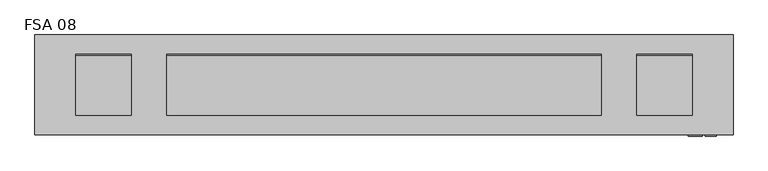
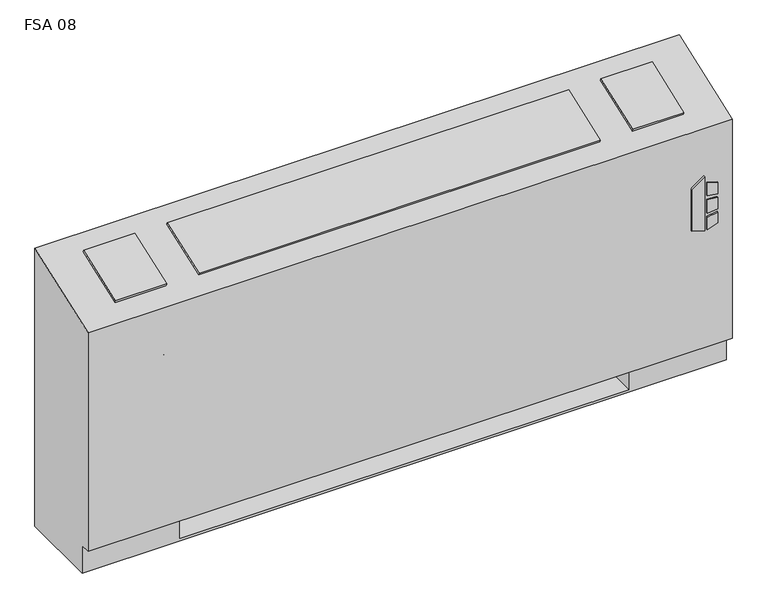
"""IFC4 building model written with IfcOpenShell, lengths in millimetres: proxy geometry, Vertical_Fan_Coil_Unit_-_FSA_-_IEC_-_2-Pipe_TS-FR_LH_2022 : FSA 08."""

from ifc_helpers import new_model, si_unit, point, frame, frame_2d, origin, place, context, project, spatial, polyline, circle_curve, trimmed, segment, composite_curve, outline, extrude, source, transform, mapped, element, save
from ifc_brep_helpers import plane_surface, revolved_surface, advanced_brep


def fsa_08_331cdd5b(model_context):
    return source(origin(), model_context, "Body", "SolidModel", [
        extrude(outline(polyline([(391.6086829, 849.3868862), (381.6606126, 881.5602728), (523.831537, 881.5602728), (500.8095309, 849.3868862), (391.6086829, 849.3868862)])), frame((0.0, 12.7, 0.0), z_axis=(0.0, 1.0, 0.0), x_axis=(0.0, 0.0, 1.0)), (0.0, 0.0, 1.0), 3.175),
        extrude(outline(polyline([(470.6079683, 888.3186058), (467.4055757, 914.4), (496.6344168, 914.4), (504.6988318, 888.3186058), (470.6079683, 888.3186058)])), frame((0.0, 12.7, 0.0), z_axis=(0.0, 1.0, 0.0), x_axis=(0.0, 0.0, 1.0)), (0.0, 0.0, 1.0), 3.175),
        extrude(outline(polyline([(418.7444414, 914.4), (415.0789404, 888.3186058), (381.6606126, 888.3186058), (390.2948498, 914.4), (418.7444414, 914.4)])), frame((0.0, 12.7, 0.0), z_axis=(0.0, 1.0, 0.0), x_axis=(0.0, 0.0, 1.0)), (0.0, 0.0, 1.0), 3.175),
        extrude(outline(polyline([(458.0596028, 914.4), (460.3414292, 888.3186058), (424.4038806, 888.3186058), (427.1451456, 914.4), (458.0596028, 914.4)])), frame((0.0, 12.7, 0.0), z_axis=(0.0, 1.0, 0.0), x_axis=(0.0, 0.0, 1.0)), (0.0, 0.0, 1.0), 3.175),
        extrude(outline(polyline([(831.85, 223.266), (831.85, 81.534), (711.2, 81.534), (711.2, 223.266), (831.85, 223.266)])), frame((0.0, 0.0, 327.025), z_axis=(0.0, 0.0, 1.0), x_axis=(1.0, 0.0, 0.0)), (0.0, 0.0, 1.0), 260.35),
        extrude(outline(composite_curve([segment(trimmed(circle_curve(frame_2d((-469.9, 130.175)), 9.525), [point((-479.425, 130.175))], [point((-460.375, 130.175))], False, "CARTESIAN"), True, "CONTINUOUS"), segment(trimmed(circle_curve(frame_2d((-469.9, 130.175)), 9.525), [point((-460.375, 130.175))], [point((-479.425, 130.175))], False, "CARTESIAN"), True, "CONTINUOUS")], self_intersect=False)), frame((0.0, 0.0, 101.6), z_axis=(0.0, 0.0, 1.0), x_axis=(1.0, 0.0, 0.0)), (0.0, 0.0, 1.0), 25.4),
        extrude(outline(polyline([(-571.5, 63.5), (-571.5, 196.85), (-406.4, 196.85), (-406.4, 63.5), (-571.5, 63.5)])), frame((0.0, 0.0, 127.0), z_axis=(0.0, 0.0, 1.0), x_axis=(1.0, 0.0, 0.0)), (0.0, 0.0, 1.0), 50.8),
        extrude(outline(polyline([(0.0, -146.0500001), (0.0, 0.0), (127.0, 0.0), (127.0, -146.0500001), (0.0, -146.0500001)])), frame((-553.593, 200.4217127, 714.3418685), z_axis=(0.0, -0.3396444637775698, 0.9405538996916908), x_axis=(1.0, 0.0, 0.0)), (0.0, 0.0, 1.0), 6.35),
        extrude(outline(polyline([(0.0, -146.0500001), (0.0, 0.0), (996.95, 0.0), (996.95, -146.0500001), (0.0, -146.0500001)])), frame((650.875, 63.0538156, 664.7367945), z_axis=(0.0, -0.33964446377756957, 0.9405538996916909), x_axis=(-1.0, 0.0, 0.0)), (0.0, 0.0, 1.0), 6.35),
        extrude(outline(polyline([(0.0, -146.0500001), (0.0, 0.0), (127.0, 0.0), (127.0, -146.0500001), (0.0, -146.0500001)])), frame((858.393, 63.0538156, 664.7367945), z_axis=(0.0, -0.3396444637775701, 0.9405538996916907), x_axis=(-1.0, 0.0, 0.0)), (0.0, 0.0, 1.0), 6.35),
        extrude(outline(composite_curve([segment(trimmed(circle_curve(frame_2d((109.347, 456.819)), 7.9375), [point((109.347, 464.7565))], [point((109.347, 448.8815))], False, "CARTESIAN"), True, "CONTINUOUS"), segment(trimmed(circle_curve(frame_2d((109.347, 456.819)), 7.9375), [point((109.347, 448.8815))], [point((109.347, 464.7565))], False, "CARTESIAN"), True, "CONTINUOUS")], self_intersect=False)), frame((-457.2, 0.0, 0.0), z_axis=(1.0, 0.0, 0.0), x_axis=(0.0, 1.0, 0.0)), (0.0, 0.0, 1.0), 50.8),
        extrude(outline(composite_curve([segment(trimmed(circle_curve(frame_2d((157.4546, 429.4632)), 7.9375), [point((157.4546, 437.4007))], [point((157.4546, 421.5257))], False, "CARTESIAN"), True, "CONTINUOUS"), segment(trimmed(circle_curve(frame_2d((157.4546, 429.4632)), 7.9375), [point((157.4546, 421.5257))], [point((157.4546, 437.4007))], False, "CARTESIAN"), True, "CONTINUOUS")], self_intersect=False)), frame((-457.2, 0.0, 0.0), z_axis=(1.0, 0.0, 0.0), x_axis=(0.0, 1.0, 0.0)), (0.0, 0.0, 1.0), 50.8),
        advanced_brep(
        [(-647.7, 244.475, 0.0), (952.5, 244.475, 0.0), (952.5, 41.275, 0.0), (-647.7, 41.275, 0.0), (-647.7, 244.475, 730.25), (952.5, 244.475, 730.25), (711.2, 244.475, 73.025), (939.8, 244.475, 73.025), (939.8, 244.475, 654.05), (711.2, 244.475, 654.05), (711.2, 244.475, 414.8650565), (739.775, 244.475, 414.8650565), (739.775, 244.475, 385.2349435), (711.2, 244.475, 385.2349435), (711.2, 244.475, 287.3375), (739.775, 244.475, 287.3375), (739.775, 244.475, 258.7625), (711.2, 244.475, 258.7625), (711.2, 244.475, 141.2875), (739.775, 244.475, 141.2875), (739.775, 244.475, 112.7125), (711.2, 244.475, 112.7125), (-406.4, 244.475, 654.05), (-635.0, 244.475, 654.05), (-635.0, 244.475, 73.025), (-406.4, 244.475, 73.025), (-406.4, 244.475, 112.7125), (-434.975, 244.475, 112.7125), (-434.975, 244.475, 141.2875), (-406.4, 244.475, 141.2875), (-406.4, 244.475, 258.7625), (-434.975, 244.475, 258.7625), (-434.975, 244.475, 287.3375), (-406.4, 244.475, 287.3375), (-406.4, 244.475, 385.2349435), (-434.975, 244.475, 385.2349435), (-434.975, 244.475, 414.8650565), (-406.4, 244.475, 414.8650565), (729.4626, 244.475, 127.0), (718.3374, 244.475, 127.0), (729.4626, 244.475, 400.05), (718.3374, 244.475, 400.05), (729.4626, 244.475, 273.05), (718.3374, 244.475, 273.05), (-413.5374, 244.475, 127.0), (-424.6626, 244.475, 127.0), (-413.5374, 244.475, 273.05), (-424.6626, 244.475, 273.05), (-413.5374, 244.475, 400.05), (-424.6626, 244.475, 400.05), (-647.7, 41.275, 73.025), (-647.7, 15.875, 73.025), (-647.7, 15.875, 647.7), (952.5, 15.875, 73.025), (952.5, 15.875, 647.7), (952.5, 41.275, 73.025), (-406.4, 41.275, 73.025), (-406.4, 225.425, 73.025), (711.2, 225.425, 73.025), (711.2, 41.275, 73.025), (711.2, 41.275, 6.35), (-406.4, 41.275, 6.35), (711.2, 41.275, 654.05), (939.8, 41.275, 654.05), (939.8, 41.275, 73.025), (711.2, 41.275, 73.025), (-406.4, 41.275, 654.05), (-406.4, 41.275, 73.025), (-635.0, 41.275, 73.025), (-635.0, 41.275, 654.05), (711.2, 225.425, 73.025), (711.2, 238.125, 112.7125), (711.2, 238.125, 141.2875), (711.2, 238.125, 258.7625), (711.2, 238.125, 287.3375), (711.2, 238.125, 385.2349435), (711.2, 238.125, 414.8650565), (-406.4, 225.425, 73.025), (-406.4, 238.125, 414.8650565), (-406.4, 238.125, 385.2349435), (-406.4, 238.125, 287.3375), (-406.4, 238.125, 258.7625), (-406.4, 238.125, 141.2875), (-406.4, 238.125, 112.7125), (-406.4, 225.425, 6.35), (711.2, 225.425, 6.35), (739.775, 238.125, 112.7125), (739.775, 238.125, 141.2875), (718.3374, 238.125, 127.0), (729.4626, 238.125, 127.0), (739.775, 238.125, 258.7625), (739.775, 238.125, 287.3375), (718.3374, 238.125, 273.05), (729.4626, 238.125, 273.05), (739.775, 238.125, 385.2349435), (739.775, 238.125, 414.8650565), (718.3374, 238.125, 400.05), (729.4626, 238.125, 400.05), (-434.975, 238.125, 141.2875), (-434.975, 238.125, 112.7125), (-424.6626, 238.125, 127.0), (-413.5374, 238.125, 127.0), (-434.975, 238.125, 287.3375), (-434.975, 238.125, 258.7625), (-424.6626, 238.125, 273.05), (-413.5374, 238.125, 273.05), (-434.975, 238.125, 414.8650565), (-434.975, 238.125, 385.2349435), (-424.6626, 238.125, 400.05), (-413.5374, 238.125, 400.05)],
        [
            (0, 1),
            (1, 2),
            (2, 3),
            (3, 0),
            (0, 4),
            (4, 5),
            (5, 1),
            (6, 7),
            (7, 8),
            (8, 9),
            (9, 10),
            (10, 11),
            (11, 12),
            (12, 13),
            (13, 14),
            (14, 15),
            (15, 16),
            (16, 17),
            (17, 18),
            (18, 19),
            (19, 20),
            (20, 21),
            (21, 6),
            (22, 23),
            (23, 24),
            (24, 25),
            (25, 26),
            (26, 27),
            (27, 28),
            (28, 29),
            (29, 30),
            (30, 31),
            (31, 32),
            (32, 33),
            (33, 34),
            (34, 35),
            (35, 36),
            (36, 37),
            (37, 22),
            (38, 39, circle_curve(frame((723.9, 244.475, 127.0), z_axis=(0.0, -1.0, 0.0), x_axis=(-1.0, 0.0, 0.0)), 5.5626)),
            (39, 38, circle_curve(frame((723.9, 244.475, 127.0), z_axis=(0.0, -1.0, 0.0), x_axis=(-1.0, 0.0, 0.0)), 5.5626)),
            (40, 41, circle_curve(frame((723.9, 244.475, 400.05), z_axis=(0.0, -1.0, 0.0), x_axis=(-1.0, 0.0, 0.0)), 5.5626)),
            (41, 40, circle_curve(frame((723.9, 244.475, 400.05), z_axis=(0.0, -1.0, 0.0), x_axis=(-1.0, 0.0, 0.0)), 5.5626)),
            (42, 43, circle_curve(frame((723.9, 244.475, 273.05), z_axis=(0.0, -1.0, 0.0), x_axis=(-1.0, 0.0, 0.0)), 5.5626)),
            (43, 42, circle_curve(frame((723.9, 244.475, 273.05), z_axis=(0.0, -1.0, 0.0), x_axis=(-1.0, 0.0, 0.0)), 5.5626)),
            (44, 45, circle_curve(frame((-419.1, 244.475, 127.0), z_axis=(0.0, -1.0, 0.0), x_axis=(-1.0, 0.0, 0.0)), 5.5626)),
            (45, 44, circle_curve(frame((-419.1, 244.475, 127.0), z_axis=(0.0, -1.0, 0.0), x_axis=(-1.0, 0.0, 0.0)), 5.5626)),
            (46, 47, circle_curve(frame((-419.1, 244.475, 273.05), z_axis=(0.0, -1.0, 0.0), x_axis=(-1.0, 0.0, 0.0)), 5.5626)),
            (47, 46, circle_curve(frame((-419.1, 244.475, 273.05), z_axis=(0.0, -1.0, 0.0), x_axis=(-1.0, 0.0, 0.0)), 5.5626)),
            (48, 49, circle_curve(frame((-419.1, 244.475, 400.05), z_axis=(0.0, -1.0, 0.0), x_axis=(-1.0, 0.0, 0.0)), 5.5626)),
            (49, 48, circle_curve(frame((-419.1, 244.475, 400.05), z_axis=(0.0, -1.0, 0.0), x_axis=(-1.0, 0.0, 0.0)), 5.5626)),
            (3, 50),
            (50, 51),
            (51, 52),
            (52, 4),
            (51, 53),
            (53, 54),
            (54, 52),
            (5, 54),
            (53, 55),
            (55, 2),
            (50, 56),
            (56, 57),
            (57, 58),
            (58, 59),
            (59, 55),
            (59, 60),
            (60, 61),
            (61, 56),
            (62, 63),
            (63, 64),
            (64, 65),
            (65, 62),
            (66, 67),
            (67, 68),
            (68, 69),
            (69, 66),
            (65, 70),
            (70, 6),
            (21, 71),
            (71, 72),
            (72, 18),
            (17, 73),
            (73, 74),
            (74, 14),
            (13, 75),
            (75, 76),
            (76, 10),
            (9, 62),
            (64, 7),
            (63, 8),
            (69, 23),
            (22, 66),
            (68, 24),
            (67, 77),
            (77, 25),
            (37, 78),
            (78, 79),
            (79, 34),
            (33, 80),
            (80, 81),
            (81, 30),
            (29, 82),
            (82, 83),
            (83, 26),
            (57, 84),
            (84, 85),
            (85, 58),
            (85, 60),
            (84, 61),
            (71, 86),
            (86, 87),
            (87, 72),
            (88, 89, circle_curve(frame((723.9, 238.125, 127.0), z_axis=(0.0, 1.0, 0.0), x_axis=(-1.0, 0.0, 0.0)), 5.5626)),
            (89, 88, circle_curve(frame((723.9, 238.125, 127.0), z_axis=(0.0, 1.0, 0.0), x_axis=(-1.0, 0.0, 0.0)), 5.5626)),
            (73, 90),
            (90, 91),
            (91, 74),
            (92, 93, circle_curve(frame((723.9, 238.125, 273.05), z_axis=(0.0, 1.0, 0.0), x_axis=(-1.0, 0.0, 0.0)), 5.5626)),
            (93, 92, circle_curve(frame((723.9, 238.125, 273.05), z_axis=(0.0, 1.0, 0.0), x_axis=(-1.0, 0.0, 0.0)), 5.5626)),
            (75, 94),
            (94, 95),
            (95, 76),
            (96, 97, circle_curve(frame((723.9, 238.125, 400.05), z_axis=(0.0, 1.0, 0.0), x_axis=(-1.0, 0.0, 0.0)), 5.5626)),
            (97, 96, circle_curve(frame((723.9, 238.125, 400.05), z_axis=(0.0, 1.0, 0.0), x_axis=(-1.0, 0.0, 0.0)), 5.5626)),
            (98, 99),
            (99, 83),
            (82, 98),
            (100, 101, circle_curve(frame((-419.1, 238.125, 127.0), z_axis=(0.0, 1.0, 0.0), x_axis=(-1.0, 0.0, 0.0)), 5.5626)),
            (101, 100, circle_curve(frame((-419.1, 238.125, 127.0), z_axis=(0.0, 1.0, 0.0), x_axis=(-1.0, 0.0, 0.0)), 5.5626)),
            (102, 103),
            (103, 81),
            (80, 102),
            (104, 105, circle_curve(frame((-419.1, 238.125, 273.05), z_axis=(0.0, 1.0, 0.0), x_axis=(-1.0, 0.0, 0.0)), 5.5626)),
            (105, 104, circle_curve(frame((-419.1, 238.125, 273.05), z_axis=(0.0, 1.0, 0.0), x_axis=(-1.0, 0.0, 0.0)), 5.5626)),
            (106, 107),
            (107, 79),
            (78, 106),
            (108, 109, circle_curve(frame((-419.1, 238.125, 400.05), z_axis=(0.0, 1.0, 0.0), x_axis=(-1.0, 0.0, 0.0)), 5.5626)),
            (109, 108, circle_curve(frame((-419.1, 238.125, 400.05), z_axis=(0.0, 1.0, 0.0), x_axis=(-1.0, 0.0, 0.0)), 5.5626)),
            (87, 19),
            (86, 20),
            (91, 15),
            (90, 16),
            (95, 11),
            (94, 12),
            (28, 98),
            (99, 27),
            (32, 102),
            (103, 31),
            (36, 106),
            (107, 35),
            (88, 39),
            (38, 89),
            (96, 41),
            (40, 97),
            (92, 43),
            (42, 93),
            (100, 45),
            (44, 101),
            (104, 47),
            (46, 105),
            (108, 49),
            (48, 109),
        ],
        [
            plane_surface(frame((-647.7, 244.475, 0.0), z_axis=(0.0, 0.0, -1.0), x_axis=(1.0, 0.0, 0.0))),
            plane_surface(frame((952.5, 244.475, 730.25), z_axis=(0.0, 1.0, 0.0), x_axis=(0.0, 0.0, -1.0))),
            plane_surface(frame((-647.7, 244.475, 730.25), z_axis=(-1.0, 0.0, 0.0), x_axis=(0.0, 0.0, -1.0))),
            plane_surface(frame((-647.7, 15.875, 730.25), z_axis=(0.0, -1.0, 0.0), x_axis=(0.0, 0.0, -1.0))),
            plane_surface(frame((952.5, 15.875, 730.25), z_axis=(1.0, 0.0, 0.0), x_axis=(0.0, 0.0, -1.0))),
            plane_surface(frame((-647.7, 15.875, 73.025), z_axis=(0.0, 0.0, -1.0), x_axis=(1.0, 0.0, 0.0))),
            plane_surface(frame((-647.7, 41.275, 73.025), z_axis=(0.0, -1.0, 0.0), x_axis=(1.0, 0.0, 0.0))),
            plane_surface(frame((711.2, 41.275, 654.05), z_axis=(0.0, 1.0, 0.0), x_axis=(0.0, 0.0, -1.0))),
            plane_surface(frame((711.2, 41.275, 654.05), z_axis=(1.0, 0.0, 0.0), x_axis=(0.0, 1.0, 0.0))),
            plane_surface(frame((711.2, 41.275, 73.025), z_axis=(0.0, 0.0, 1.0), x_axis=(0.0, 1.0, 0.0))),
            plane_surface(frame((939.8, 41.275, 73.025), z_axis=(-1.0, 0.0, 0.0), x_axis=(0.0, 1.0, 0.0))),
            plane_surface(frame((939.8, 41.275, 654.05), z_axis=(0.0, 0.0, -1.0), x_axis=(0.0, 1.0, 0.0))),
            plane_surface(frame((-406.4, 41.275, 654.05), z_axis=(0.0, 0.0, -1.0), x_axis=(0.0, 1.0, 0.0))),
            plane_surface(frame((-635.0, 41.275, 654.05), z_axis=(1.0, 0.0, 0.0), x_axis=(0.0, 1.0, 0.0))),
            plane_surface(frame((-635.0, 41.275, 73.025), z_axis=(0.0, 0.0, 1.0), x_axis=(0.0, 1.0, 0.0))),
            plane_surface(frame((-406.4, 41.275, 73.025), z_axis=(-1.0, 0.0, 0.0), x_axis=(0.0, 1.0, 0.0))),
            plane_surface(frame((711.2, 225.425, 73.025), z_axis=(0.0, -1.0, 0.0), x_axis=(0.0, 0.0, -1.0))),
            plane_surface(frame((711.2, 225.425, 73.025), z_axis=(-1.0, 0.0, 0.0), x_axis=(0.0, -1.0, 0.0))),
            plane_surface(frame((711.2, 225.425, 6.35), z_axis=(0.0, 0.0, 1.0), x_axis=(0.0, -1.0, 0.0))),
            plane_surface(frame((-406.4, 225.425, 6.35), z_axis=(1.0, 0.0, 0.0), x_axis=(0.0, -1.0, 0.0))),
            plane_surface(frame((739.775, 238.125, 141.2875), z_axis=(0.0, -1.0, 0.0), x_axis=(-1.0, 0.0, 0.0))),
            plane_surface(frame((711.2, 244.475, 141.2875), z_axis=(0.0, 0.0, 1.0), x_axis=(0.0, -1.0, 0.0))),
            plane_surface(frame((739.775, 244.475, 141.2875), z_axis=(1.0, 0.0, 0.0), x_axis=(0.0, -1.0, 0.0))),
            plane_surface(frame((739.775, 244.475, 112.7125), z_axis=(0.0, 0.0, -1.0), x_axis=(0.0, -1.0, 0.0))),
            plane_surface(frame((711.2, 244.475, 287.3375), z_axis=(0.0, 0.0, 1.0), x_axis=(0.0, -1.0, 0.0))),
            plane_surface(frame((739.775, 244.475, 287.3375), z_axis=(1.0, 0.0, 0.0), x_axis=(0.0, -1.0, 0.0))),
            plane_surface(frame((739.775, 244.475, 258.7625), z_axis=(0.0, 0.0, -1.0), x_axis=(0.0, -1.0, 0.0))),
            plane_surface(frame((711.2, 244.475, 414.8650565), z_axis=(0.0, 0.0, 1.0), x_axis=(0.0, -1.0, 0.0))),
            plane_surface(frame((739.775, 244.475, 414.8650565), z_axis=(1.0, 0.0, 0.0), x_axis=(0.0, -1.0, 0.0))),
            plane_surface(frame((739.775, 244.475, 385.2349435), z_axis=(0.0, 0.0, -1.0), x_axis=(0.0, -1.0, 0.0))),
            plane_surface(frame((-434.975, 244.475, 141.2875), z_axis=(0.0, 0.0, 1.0), x_axis=(0.0, -1.0, 0.0))),
            plane_surface(frame((-406.4, 244.475, 112.7125), z_axis=(0.0, 0.0, -1.0), x_axis=(0.0, -1.0, 0.0))),
            plane_surface(frame((-434.975, 244.475, 112.7125), z_axis=(-1.0, 0.0, 0.0), x_axis=(0.0, -1.0, 0.0))),
            plane_surface(frame((-434.975, 244.475, 287.3375), z_axis=(0.0, 0.0, 1.0), x_axis=(0.0, -1.0, 0.0))),
            plane_surface(frame((-406.4, 244.475, 258.7625), z_axis=(0.0, 0.0, -1.0), x_axis=(0.0, -1.0, 0.0))),
            plane_surface(frame((-434.975, 244.475, 258.7625), z_axis=(-1.0, 0.0, 0.0), x_axis=(0.0, -1.0, 0.0))),
            plane_surface(frame((-434.975, 244.475, 414.8650565), z_axis=(0.0, 0.0, 1.0), x_axis=(0.0, -1.0, 0.0))),
            plane_surface(frame((-406.4, 244.475, 385.2349435), z_axis=(0.0, 0.0, -1.0), x_axis=(0.0, -1.0, 0.0))),
            plane_surface(frame((-434.975, 244.475, 385.2349435), z_axis=(-1.0, 0.0, 0.0), x_axis=(0.0, -1.0, 0.0))),
            revolved_surface(polyline([(718.3374, 238.125, 127.0), (718.3374, 244.475, 127.0)]), (723.9, 244.475, 127.0), (0.0, -1.0, 0.0)),
            revolved_surface(polyline([(718.3374, 238.125, 400.05), (718.3374, 244.475, 400.05)]), (723.9, 244.475, 400.05), (0.0, -1.0, 0.0)),
            revolved_surface(polyline([(718.3374, 238.125, 273.05), (718.3374, 244.475, 273.05)]), (723.9, 244.475, 273.05), (0.0, -1.0, 0.0)),
            revolved_surface(polyline([(-424.6626, 238.125, 127.0), (-424.6626, 244.475, 127.0)]), (-419.1, 244.475, 127.0), (0.0, -1.0, 0.0)),
            revolved_surface(polyline([(-424.6626, 238.125, 273.05), (-424.6626, 244.475, 273.05)]), (-419.1, 244.475, 273.05), (0.0, -1.0, 0.0)),
            revolved_surface(polyline([(-424.6626, 238.125, 400.05), (-424.6626, 244.475, 400.05)]), (-419.1, 244.475, 400.05), (0.0, -1.0, 0.0)),
            plane_surface(frame((-647.7, 244.475, 730.25), z_axis=(0.0, -0.33964446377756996, 0.9405538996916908), x_axis=(1.0, 0.0, 0.0))),
        ],
        [
            (0, [[1, 2, 3, 4]]),
            (1, [[-1, 5, 6, 7], [8, 9, 10, 11, 12, 13, 14, 15, 16, 17, 18, 19, 20, 21, 22, 23], [24, 25, 26, 27, 28, 29, 30, 31, 32, 33, 34, 35, 36, 37, 38, 39], [40, 41], [42, 43], [44, 45], [46, 47], [48, 49], [50, 51]]),
            (2, [[-5, -4, 52, 53, 54, 55]]),
            (3, [[56, 57, 58, -54]]),
            (4, [[-7, 59, -57, 60, 61, -2]]),
            (5, [[-53, 62, 63, 64, 65, 66, -60, -56]]),
            (6, [[-3, -61, -66, 67, 68, 69, -62, -52]]),
            (7, [[70, 71, 72, 73]]),
            (7, [[74, 75, 76, 77]]),
            (8, [[-73, 78, 79, -23, 80, 81, 82, -19, 83, 84, 85, -15, 86, 87, 88, -11, 89]]),
            (9, [[-72, 90, -8, -79, -78]]),
            (10, [[-71, 91, -9, -90]]),
            (11, [[-70, -89, -10, -91]]),
            (12, [[-77, 92, -24, 93]]),
            (13, [[-76, 94, -25, -92]]),
            (14, [[-75, 95, 96, -26, -94]]),
            (15, [[-74, -93, -39, 97, 98, 99, -35, 100, 101, 102, -31, 103, 104, 105, -27, -96, -95]]),
            (16, [[-64, 106, 107, 108]]),
            (17, [[-108, 109, -67, -65]]),
            (18, [[-107, 110, -68, -109]]),
            (19, [[-106, -63, -69, -110]]),
            (20, [[111, 112, 113, -81], [114, 115]]),
            (20, [[116, 117, 118, -84], [119, 120]]),
            (20, [[121, 122, 123, -87], [124, 125]]),
            (20, [[126, 127, -104, 128], [129, 130]]),
            (20, [[131, 132, -101, 133], [134, 135]]),
            (20, [[136, 137, -98, 138], [139, 140]]),
            (21, [[-113, 141, -20, -82]]),
            (22, [[-112, 142, -21, -141]]),
            (23, [[-111, -80, -22, -142]]),
            (24, [[-118, 143, -16, -85]]),
            (25, [[-117, 144, -17, -143]]),
            (26, [[-116, -83, -18, -144]]),
            (27, [[-123, 145, -12, -88]]),
            (28, [[-122, 146, -13, -145]]),
            (29, [[-121, -86, -14, -146]]),
            (30, [[-128, -103, -30, 147]]),
            (31, [[-127, 148, -28, -105]]),
            (32, [[-126, -147, -29, -148]]),
            (33, [[-133, -100, -34, 149]]),
            (34, [[-132, 150, -32, -102]]),
            (35, [[-131, -149, -33, -150]]),
            (36, [[-138, -97, -38, 151]]),
            (37, [[-137, 152, -36, -99]]),
            (38, [[-136, -151, -37, -152]]),
            (39, [[153, -40, 154, -114]]),
            (39, [[-153, -115, -154, -41]]),
            (40, [[155, -42, 156, -124]]),
            (40, [[-155, -125, -156, -43]]),
            (41, [[157, -44, 158, -119]]),
            (41, [[-157, -120, -158, -45]]),
            (42, [[159, -46, 160, -129]]),
            (42, [[-159, -130, -160, -47]]),
            (43, [[161, -48, 162, -134]]),
            (43, [[-161, -135, -162, -49]]),
            (44, [[163, -50, 164, -139]]),
            (44, [[-163, -140, -164, -51]]),
            (45, [[-6, -55, -58, -59]]),
        ],
    ),
    ])


if __name__ == "__main__":
    model = new_model("IFC4")
    model_context = context("Model", 3, world=origin())
    ifc_project = project(units=[si_unit("LENGTHUNIT", "METRE", prefix="MILLI")], contexts=[model_context])
    site = spatial("IfcSite", under=ifc_project)
    building = spatial("IfcBuilding", under=site)
    placement = place(None, origin())
    fsa_08_shape = fsa_08_331cdd5b(model_context)
    element("IfcBuildingElementProxy", 1, Name="Vertical_Fan_Coil_Unit_-_FSA_-_IEC_-_2-Pipe_TS-FR_LH_2022 : FSA 08", ObjectType="Vertical_Fan_Coil_Unit_-_FSA_-_IEC_-_2-Pipe_TS-FR_LH_2022 : FSA 08", at=placement, inside=building, context=model_context, shape_type="MappedRepresentation", body=[
        mapped(fsa_08_shape, transform((0.0, 0.0, 0.0), x_axis=(1.0, 0.0, 0.0), y_axis=(0.0, 1.0, 0.0), z_axis=(0.0, 0.0, 1.0))),
    ])
    save(model, "model.ifc")
